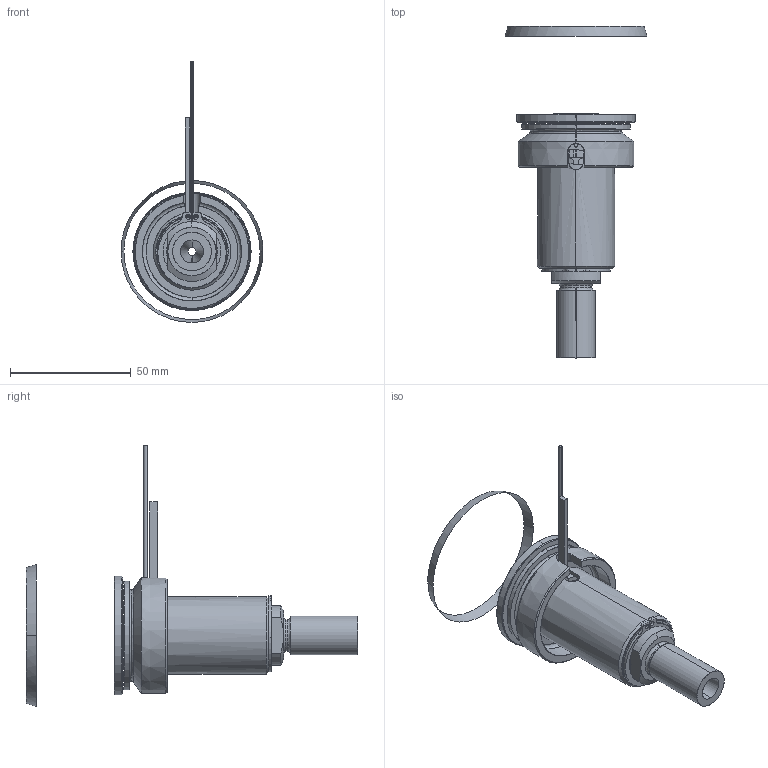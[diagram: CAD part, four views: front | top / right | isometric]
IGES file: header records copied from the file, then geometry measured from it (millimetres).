
Start section: SolidWorks IGES file using analytic representation for surfaces
Global section: file name: C:\Documents and Settings\ws-20\Desktop\TEMPORANEA\UGBE5001-S-A-P-5 [Ød-3.5 P-25 ØC-12].IGS; native system: SolidWorks 2012; preprocessor: SolidWorks 2012; author: ws-20; date: 120306.145004; units: millimetre
Bounding box: 58.79 x 137.44 x 108.04 mm (x, y, z)
Surface area: 33419 mm2 (no closed solid volume)
Topology: 0 solids, 0 shells, 113 faces, 2184 edges, 2184 vertices
Faces by surface type: revolution 69, bspline 44
